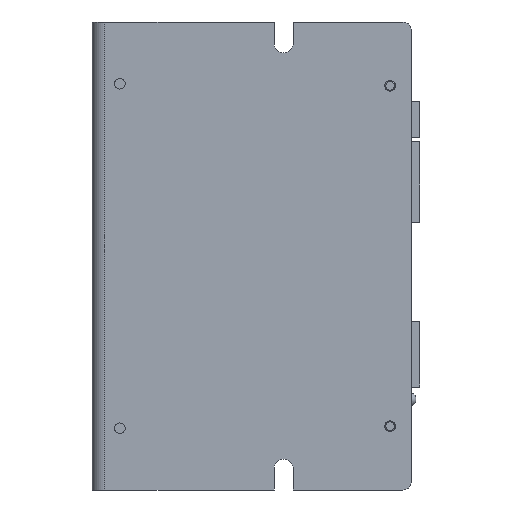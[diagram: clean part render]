
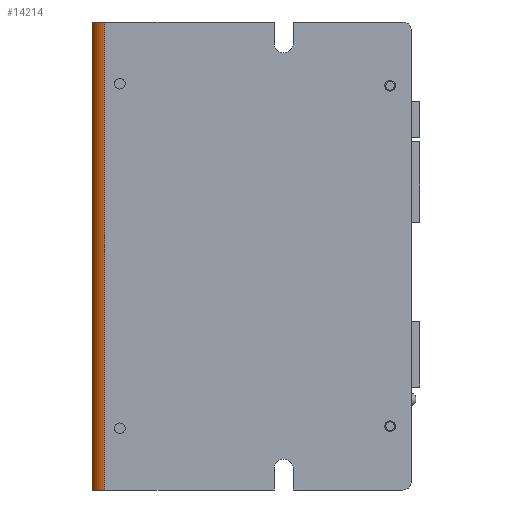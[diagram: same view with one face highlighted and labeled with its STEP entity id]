
A CAD part, front view. The second image highlights one B-rep face of the part: STEP entity #14214.
In plain terms, the highlighted cylindrical face has radius 3 mm (diameter 6 mm), a partial arc.
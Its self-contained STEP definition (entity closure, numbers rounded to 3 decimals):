
#933 = CIRCLE ( 'NONE', #10781, 3. ) ;
#1186 = CARTESIAN_POINT ( 'NONE',  ( 1., 1., -55. ) ) ;
#1292 = CARTESIAN_POINT ( 'NONE',  ( 1., 1., 55. ) ) ;
#2553 = CARTESIAN_POINT ( 'NONE',  ( -2., 1., 55. ) ) ;
#3677 = DIRECTION ( 'NONE',  ( 1., 0., 0. ) ) ;
#8037 = CARTESIAN_POINT ( 'NONE',  ( 1., -2., 55. ) ) ;
#8385 = VERTEX_POINT ( 'NONE', #2553 ) ;
#9927 = CARTESIAN_POINT ( 'NONE',  ( -2., 1., 55. ) ) ;
#10781 = AXIS2_PLACEMENT_3D ( 'NONE', #1186, #33886, #43117 ) ;
#11985 = CYLINDRICAL_SURFACE ( 'NONE', #23250, 3. ) ;
#12423 = DIRECTION ( 'NONE',  ( 0., 0., -1. ) ) ;
#12718 = CARTESIAN_POINT ( 'NONE',  ( 1., 1., 55. ) ) ;
#14214 = ADVANCED_FACE ( 'NONE', ( #57882 ), #11985, .T. ) ;
#16111 = VECTOR ( 'NONE', #36565, 1000. ) ;
#17127 = VECTOR ( 'NONE', #12423, 1000. ) ;
#18861 = EDGE_LOOP ( 'NONE', ( #41005, #45164, #38255, #31943 ) ) ;
#22272 = AXIS2_PLACEMENT_3D ( 'NONE', #12718, #26309, #3677 ) ;
#23250 = AXIS2_PLACEMENT_3D ( 'NONE', #1292, #57653, #33412 ) ;
#26309 = DIRECTION ( 'NONE',  ( 0., 0., 1. ) ) ;
#30431 = CARTESIAN_POINT ( 'NONE',  ( -2., 1., -55. ) ) ;
#31943 = ORIENTED_EDGE ( 'NONE', *, *, #49914, .T. ) ;
#32873 = VERTEX_POINT ( 'NONE', #30431 ) ;
#33412 = DIRECTION ( 'NONE',  ( -1., 0., 0. ) ) ;
#33886 = DIRECTION ( 'NONE',  ( 0., 0., 1. ) ) ;
#36565 = DIRECTION ( 'NONE',  ( 0., 0., -1. ) ) ;
#38255 = ORIENTED_EDGE ( 'NONE', *, *, #57299, .F. ) ;
#39091 = LINE ( 'NONE', #9927, #16111 ) ;
#41005 = ORIENTED_EDGE ( 'NONE', *, *, #50362, .T. ) ;
#41523 = LINE ( 'NONE', #8037, #17127 ) ;
#42480 = VERTEX_POINT ( 'NONE', #54446 ) ;
#43117 = DIRECTION ( 'NONE',  ( 1., 0., 0. ) ) ;
#44922 = VERTEX_POINT ( 'NONE', #58462 ) ;
#45164 = ORIENTED_EDGE ( 'NONE', *, *, #50619, .F. ) ;
#47279 = CIRCLE ( 'NONE', #22272, 3. ) ;
#49914 = EDGE_CURVE ( 'NONE', #8385, #32873, #39091, .T. ) ;
#50362 = EDGE_CURVE ( 'NONE', #32873, #44922, #933, .T. ) ;
#50619 = EDGE_CURVE ( 'NONE', #42480, #44922, #41523, .T. ) ;
#54446 = CARTESIAN_POINT ( 'NONE',  ( 1., -2., 55. ) ) ;
#57299 = EDGE_CURVE ( 'NONE', #8385, #42480, #47279, .T. ) ;
#57653 = DIRECTION ( 'NONE',  ( 0., 0., -1. ) ) ;
#57882 = FACE_OUTER_BOUND ( 'NONE', #18861, .T. ) ;
#58462 = CARTESIAN_POINT ( 'NONE',  ( 1., -2., -55. ) ) ;
